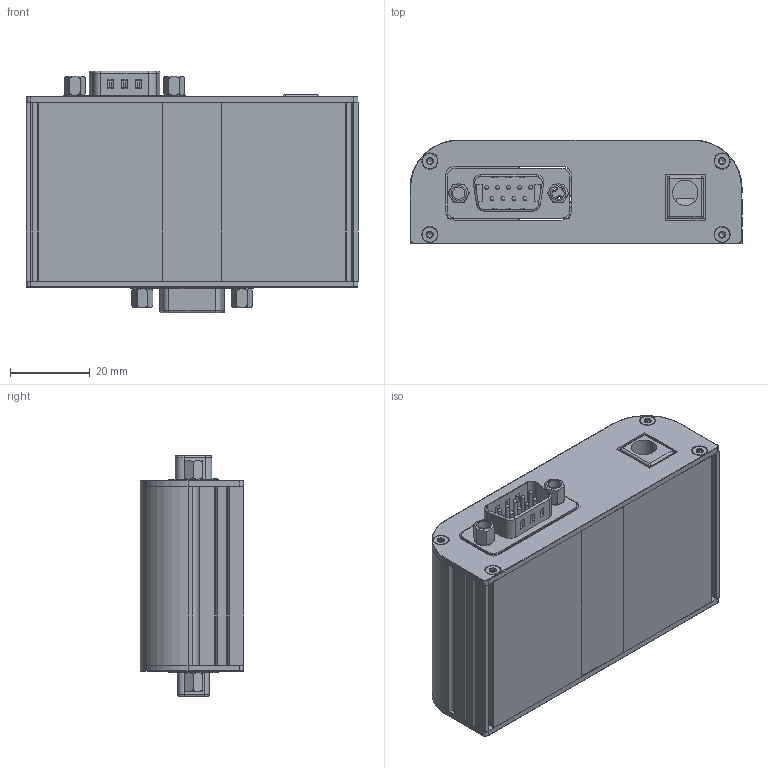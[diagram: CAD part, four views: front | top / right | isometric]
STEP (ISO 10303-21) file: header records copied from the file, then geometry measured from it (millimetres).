
FILE_DESCRIPTION (( 'STEP AP214' ), '1' );
FILE_NAME ('Interfaccia KDU-Bracci TLS 020049.STEP', '2025-10-23T13:16:27', ( '' ), ( '' ), 'SwSTEP 2.0', 'SolidWorks 2024', '' );
FILE_SCHEMA (( 'AUTOMOTIVE_DESIGN' ));
Length unit declared in the file: millimetre
Products named in the file (1): Interfaccia KDU-Bracci TLS 020049
Bounding box: 83.5 x 26 x 60.69 mm (x, y, z)
Surface area: 28893.1 mm2 (no closed solid volume)
Topology: 0 solids, 48 shells, 538 faces, 1778 edges, 1253 vertices
Faces by surface type: cylinder 248, plane 211, bspline 38, cone 25, torus 16
Full cylindrical faces by diameter (mm): 1 x9, 1.2 x9, 1.75 x8, 3.121 x4, 3.8 x8, 6.4 x1
Entity records: 26321 total; most frequent: CARTESIAN_POINT 5731, DIRECTION 3071, ORIENTED_EDGE 2686, EDGE_CURVE 1647, VERTEX_POINT 1224, AXIS2_PLACEMENT_3D 1130, VECTOR 811, LINE 811
